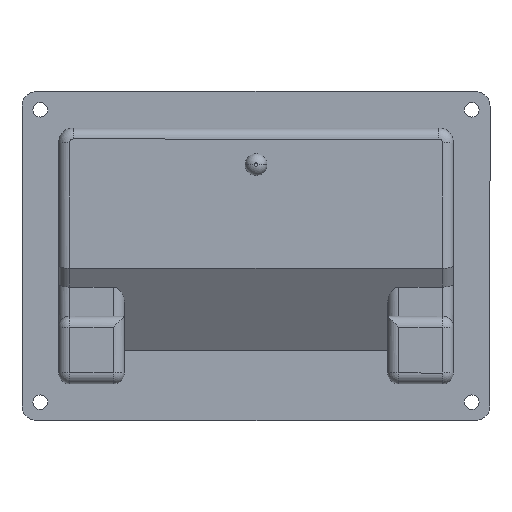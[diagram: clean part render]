
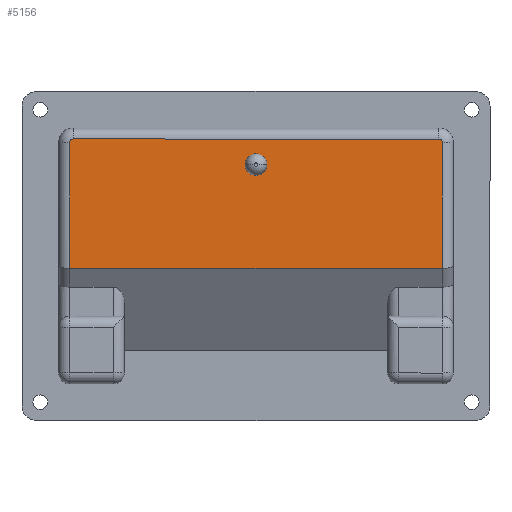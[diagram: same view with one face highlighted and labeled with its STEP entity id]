
A CAD part, front view. The second image highlights one B-rep face of the part: STEP entity #5156.
In plain terms, the highlighted planar face has unit normal (0, -1, 0).
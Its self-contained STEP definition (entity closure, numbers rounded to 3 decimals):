
#19 = EDGE_CURVE ( 'NONE', #7821, #5638, #1049, .T. ) ;
#25 = VERTEX_POINT ( 'NONE', #6161 ) ;
#385 = DIRECTION ( 'NONE',  ( 0., 0., -1. ) ) ;
#476 = VECTOR ( 'NONE', #6663, 1000. ) ;
#499 = LINE ( 'NONE', #2435, #4025 ) ;
#749 = CARTESIAN_POINT ( 'NONE',  ( 0., -18., 27. ) ) ;
#774 = AXIS2_PLACEMENT_3D ( 'NONE', #4971, #6905, #385 ) ;
#785 = DIRECTION ( 'NONE',  ( 0., -1., 0. ) ) ;
#786 = ORIENTED_EDGE ( 'NONE', *, *, #2720, .F. ) ;
#922 = VECTOR ( 'NONE', #3690, 1000. ) ;
#966 = ORIENTED_EDGE ( 'NONE', *, *, #6782, .T. ) ;
#1024 = CARTESIAN_POINT ( 'NONE',  ( -50., -18., 32. ) ) ;
#1049 = CIRCLE ( 'NONE', #3518, 1. ) ;
#1385 = EDGE_CURVE ( 'NONE', #8400, #8008, #1811, .T. ) ;
#1510 = CARTESIAN_POINT ( 'NONE',  ( -51., -18., 31. ) ) ;
#1527 = AXIS2_PLACEMENT_3D ( 'NONE', #2045, #785, #1962 ) ;
#1760 = CIRCLE ( 'NONE', #774, 1. ) ;
#1811 = CIRCLE ( 'NONE', #1527, 2. ) ;
#1815 = EDGE_CURVE ( 'NONE', #25, #3381, #4993, .T. ) ;
#1912 = FACE_OUTER_BOUND ( 'NONE', #3892, .T. ) ;
#1948 = FACE_BOUND ( 'NONE', #3920, .T. ) ;
#1962 = DIRECTION ( 'NONE',  ( 0., 0., -1. ) ) ;
#1988 = ORIENTED_EDGE ( 'NONE', *, *, #2765, .F. ) ;
#2045 = CARTESIAN_POINT ( 'NONE',  ( 0., -18., 25. ) ) ;
#2134 = DIRECTION ( 'NONE',  ( 0., 0., -1. ) ) ;
#2177 = CARTESIAN_POINT ( 'NONE',  ( -50., -18., 31. ) ) ;
#2435 = CARTESIAN_POINT ( 'NONE',  ( 50., -18., -3.408 ) ) ;
#2504 = CARTESIAN_POINT ( 'NONE',  ( 51., -18., -3.408 ) ) ;
#2513 = DIRECTION ( 'NONE',  ( 0., 0., -1. ) ) ;
#2720 = EDGE_CURVE ( 'NONE', #6402, #25, #1760, .T. ) ;
#2765 = EDGE_CURVE ( 'NONE', #7821, #6402, #7186, .T. ) ;
#2776 = CARTESIAN_POINT ( 'NONE',  ( 0., -18., 25. ) ) ;
#2983 = AXIS2_PLACEMENT_3D ( 'NONE', #2776, #5380, #2134 ) ;
#3381 = VERTEX_POINT ( 'NONE', #8497 ) ;
#3518 = AXIS2_PLACEMENT_3D ( 'NONE', #2177, #4790, #4239 ) ;
#3690 = DIRECTION ( 'NONE',  ( 1., 0., 0. ) ) ;
#3781 = CARTESIAN_POINT ( 'NONE',  ( -51., -18., -3.408 ) ) ;
#3892 = EDGE_LOOP ( 'NONE', ( #786, #1988, #3971, #966, #5179, #8412 ) ) ;
#3920 = EDGE_LOOP ( 'NONE', ( #8466, #5219 ) ) ;
#3971 = ORIENTED_EDGE ( 'NONE', *, *, #19, .T. ) ;
#4025 = VECTOR ( 'NONE', #5047, 1000. ) ;
#4239 = DIRECTION ( 'NONE',  ( 0., 0., -1. ) ) ;
#4375 = CARTESIAN_POINT ( 'NONE',  ( 50., -18., 32. ) ) ;
#4605 = PLANE ( 'NONE',  #5259 ) ;
#4790 = DIRECTION ( 'NONE',  ( 0., -1., 0. ) ) ;
#4918 = CARTESIAN_POINT ( 'NONE',  ( 50., -18., 32. ) ) ;
#4971 = CARTESIAN_POINT ( 'NONE',  ( 50., -18., 31. ) ) ;
#4993 = LINE ( 'NONE', #2504, #5597 ) ;
#5014 = EDGE_CURVE ( 'NONE', #3381, #7465, #499, .T. ) ;
#5047 = DIRECTION ( 'NONE',  ( -1., 0., 0. ) ) ;
#5156 = ADVANCED_FACE ( 'NONE', ( #1948, #1912 ), #4605, .T. ) ;
#5168 = DIRECTION ( 'NONE',  ( 0., -1., 0. ) ) ;
#5179 = ORIENTED_EDGE ( 'NONE', *, *, #5014, .F. ) ;
#5219 = ORIENTED_EDGE ( 'NONE', *, *, #1385, .F. ) ;
#5259 = AXIS2_PLACEMENT_3D ( 'NONE', #6410, #5168, #2513 ) ;
#5380 = DIRECTION ( 'NONE',  ( 0., -1., 0. ) ) ;
#5597 = VECTOR ( 'NONE', #7057, 1000. ) ;
#5638 = VERTEX_POINT ( 'NONE', #1510 ) ;
#5708 = CIRCLE ( 'NONE', #2983, 2. ) ;
#5895 = CARTESIAN_POINT ( 'NONE',  ( 0., -18., 23. ) ) ;
#6020 = EDGE_CURVE ( 'NONE', #8008, #8400, #5708, .T. ) ;
#6161 = CARTESIAN_POINT ( 'NONE',  ( 51., -18., 31. ) ) ;
#6402 = VERTEX_POINT ( 'NONE', #4918 ) ;
#6410 = CARTESIAN_POINT ( 'NONE',  ( 50., -18., 35. ) ) ;
#6663 = DIRECTION ( 'NONE',  ( 0., 0., -1. ) ) ;
#6708 = LINE ( 'NONE', #7303, #476 ) ;
#6782 = EDGE_CURVE ( 'NONE', #5638, #7465, #6708, .T. ) ;
#6905 = DIRECTION ( 'NONE',  ( 0., 1., 0. ) ) ;
#7057 = DIRECTION ( 'NONE',  ( 0., 0., -1. ) ) ;
#7186 = LINE ( 'NONE', #4375, #922 ) ;
#7303 = CARTESIAN_POINT ( 'NONE',  ( -51., -18., -3.408 ) ) ;
#7465 = VERTEX_POINT ( 'NONE', #3781 ) ;
#7821 = VERTEX_POINT ( 'NONE', #1024 ) ;
#8008 = VERTEX_POINT ( 'NONE', #749 ) ;
#8400 = VERTEX_POINT ( 'NONE', #5895 ) ;
#8412 = ORIENTED_EDGE ( 'NONE', *, *, #1815, .F. ) ;
#8466 = ORIENTED_EDGE ( 'NONE', *, *, #6020, .F. ) ;
#8497 = CARTESIAN_POINT ( 'NONE',  ( 51., -18., -3.408 ) ) ;
